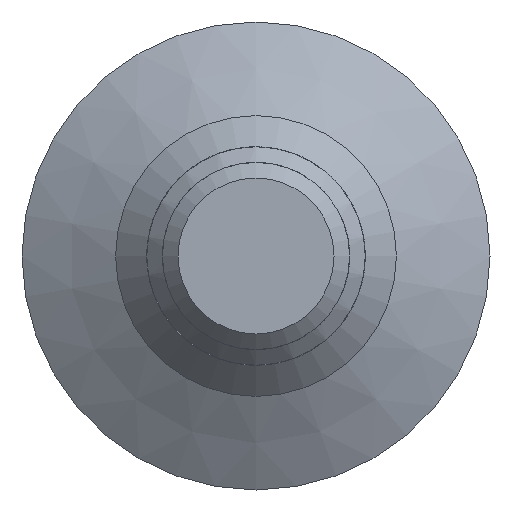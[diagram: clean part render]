
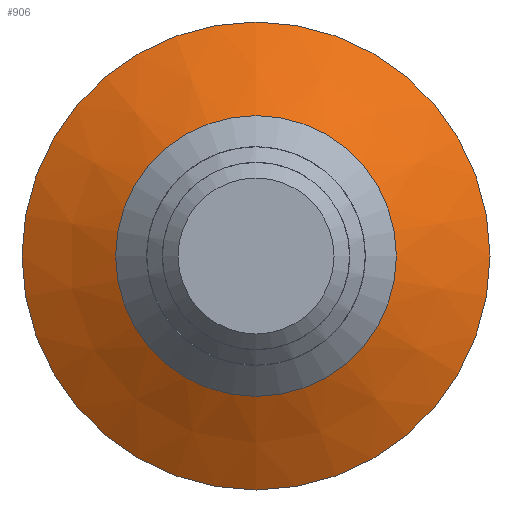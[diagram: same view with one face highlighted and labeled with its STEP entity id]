
A CAD part, front view. The second image highlights one B-rep face of the part: STEP entity #906.
In plain terms, the highlighted conical face has half-angle 60 degrees and reference radius 9 mm.
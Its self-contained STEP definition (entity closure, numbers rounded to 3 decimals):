
#839=CARTESIAN_POINT('',(28.85,56.9,32.23));
#840=VERTEX_POINT('',#839);
#847=CARTESIAN_POINT('',(28.85,56.9,50.23));
#848=VERTEX_POINT('',#847);
#849=CARTESIAN_POINT('',(28.85,56.9,41.23));
#850=DIRECTION('',(0.,-1.,0.));
#851=DIRECTION('',(0.,0.,-1.));
#852=AXIS2_PLACEMENT_3D('',#849,#850,#851);
#853=CIRCLE('',#852,9.);
#854=EDGE_CURVE('',#840,#848,#853,.T.);
#866=CARTESIAN_POINT('',(28.85,56.9,41.23));
#867=DIRECTION('',(0.,1.,0.));
#868=DIRECTION('',(0.,-0.,1.));
#869=AXIS2_PLACEMENT_3D('',#866,#867,#868);
#870=CONICAL_SURFACE('',#869,9.,60.);
#871=CARTESIAN_POINT('',(28.85,60.364,56.23));
#872=VERTEX_POINT('',#871);
#873=CARTESIAN_POINT('',(28.85,56.9,50.23));
#874=DIRECTION('',(0.,0.5,0.866));
#875=VECTOR('',#874,6.928);
#876=LINE('',#873,#875);
#877=EDGE_CURVE('',#848,#872,#876,.T.);
#878=ORIENTED_EDGE('',*,*,#877,.F.);
#879=ORIENTED_EDGE('',*,*,#854,.F.);
#880=CARTESIAN_POINT('',(28.85,56.9,41.23));
#881=DIRECTION('',(0.,-1.,0.));
#882=DIRECTION('',(0.,0.,-1.));
#883=AXIS2_PLACEMENT_3D('',#880,#881,#882);
#884=CIRCLE('',#883,9.);
#885=EDGE_CURVE('',#848,#840,#884,.T.);
#886=ORIENTED_EDGE('',*,*,#885,.F.);
#887=ORIENTED_EDGE('',*,*,#877,.T.);
#888=CARTESIAN_POINT('',(28.85,60.364,26.23));
#889=VERTEX_POINT('',#888);
#890=CARTESIAN_POINT('',(28.85,60.364,41.23));
#891=DIRECTION('',(0.,-1.,0.));
#892=DIRECTION('',(0.,0.,-1.));
#893=AXIS2_PLACEMENT_3D('',#890,#891,#892);
#894=CIRCLE('',#893,15.);
#895=EDGE_CURVE('',#872,#889,#894,.T.);
#896=ORIENTED_EDGE('',*,*,#895,.T.);
#897=CARTESIAN_POINT('',(28.85,60.364,41.23));
#898=DIRECTION('',(0.,-1.,0.));
#899=DIRECTION('',(0.,0.,-1.));
#900=AXIS2_PLACEMENT_3D('',#897,#898,#899);
#901=CIRCLE('',#900,15.);
#902=EDGE_CURVE('',#889,#872,#901,.T.);
#903=ORIENTED_EDGE('',*,*,#902,.T.);
#904=EDGE_LOOP('',(#878,#879,#886,#887,#896,#903));
#905=FACE_BOUND('',#904,.T.);
#906=ADVANCED_FACE('',(#905),#870,.T.);
